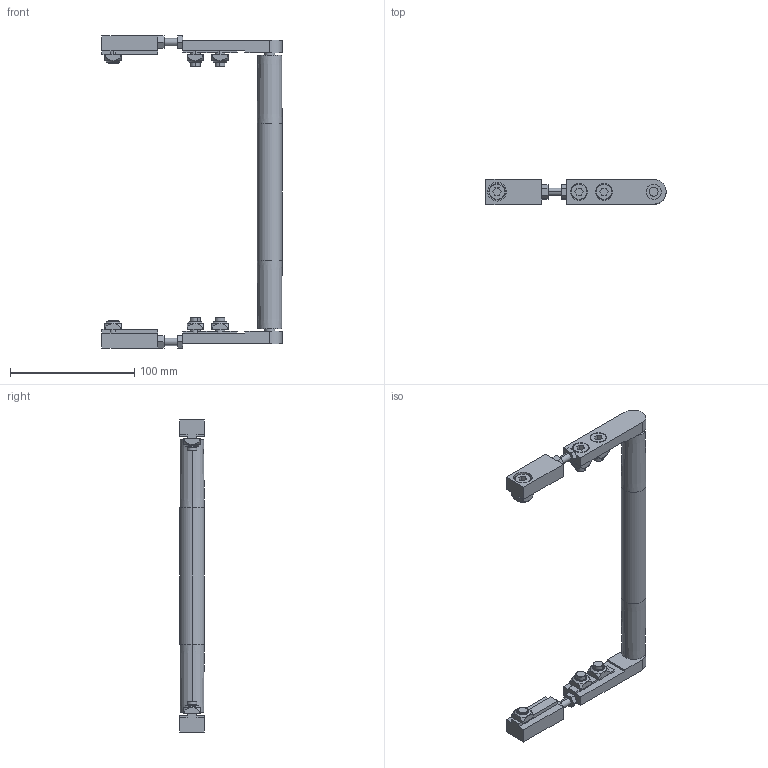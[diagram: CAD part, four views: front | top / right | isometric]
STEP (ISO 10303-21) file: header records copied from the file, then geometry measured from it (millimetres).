
FILE_DESCRIPTION (( 'STEP AP214' ), '1' );
FILE_NAME ('084.020.KI.200.STEP', '2020-02-25T16:12:36', ( '' ), ( '' ), 'SwSTEP 2.0', 'SolidWorks 2018', '' );
FILE_SCHEMA (( 'AUTOMOTIVE_DESIGN' ));
Length unit declared in the file: millimetre
Products named in the file (10): 084.800.007; 084.302.000 DADI ALUSIC 13x13-1_084.302.004; 084.800.012; 084.802.008; 084.800.008; 084.800.002; 084.800.024; 084.020.KI.200; Circlip DIN 471 - 8 x 0.8_Circlip DIN 471 - 8 x 0.8; 084.301.000 VITI ALUSIC_084.301.002
Assembly tree (27 placements, depth 2):
  084.020.KI.200
    084.802.008  x2
    084.301.000 VITI ALUSIC_084.301.002  x6
    084.302.000 DADI ALUSIC 13x13-1_084.302.004  x6
    084.800.024
    084.800.012  x4
    084.800.008  x2
    084.800.002  x2
    084.800.007  x2
    Circlip DIN 471 - 8 x 0.8_Circlip DIN 471 - 8 x 0.8  x2
Bounding box: 145 x 20 x 251 mm (x, y, z)
Volume: 97940.6 mm3; surface area: 65335.6 mm2
Topology: 31 solids, 31 shells, 664 faces, 1564 edges, 998 vertices
Faces by surface type: plane 262, cylinder 210, torus 112, cone 56, bspline 24
Entity records: 7452 total; most frequent: CARTESIAN_POINT 1561, DIRECTION 1208, ORIENTED_EDGE 1048, EDGE_CURVE 524, AXIS2_PLACEMENT_3D 474, VERTEX_POINT 337, VECTOR 260, LINE 260
